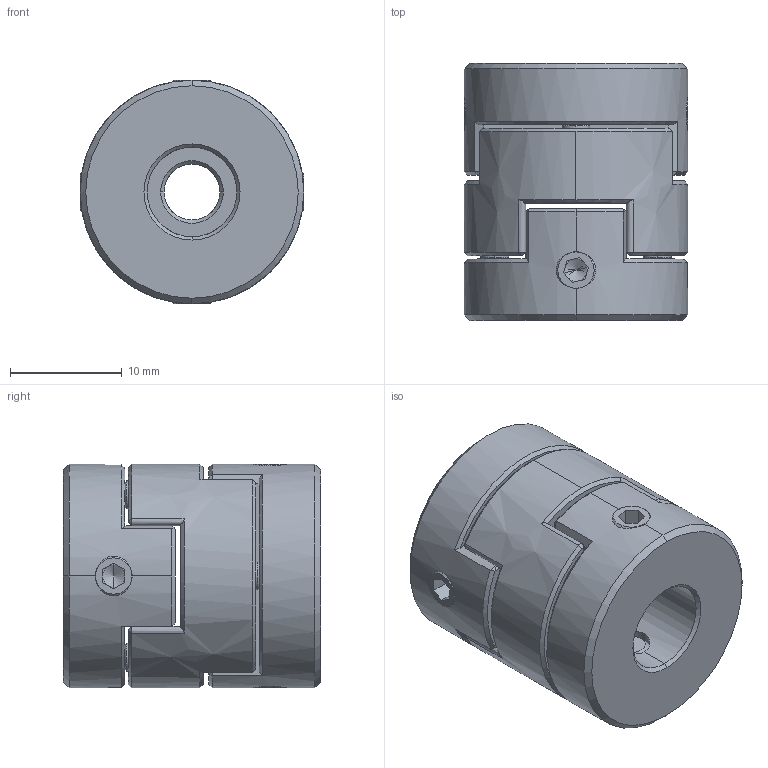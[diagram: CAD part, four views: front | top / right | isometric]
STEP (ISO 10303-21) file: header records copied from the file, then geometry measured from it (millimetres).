
FILE_DESCRIPTION (( 'STEP AP203' ), '1' );
FILE_NAME ('LZ-D-D20L23-5-8.STEP', '2021-10-30T01:43:28', ( '' ), ( '' ), 'SwSTEP 2.0', 'SolidWorks 2018', '' );
FILE_SCHEMA (( 'CONFIG_CONTROL_DESIGN' ));
Length unit declared in the file: millimetre
Products named in the file (1): LZ-D-D20L23-5-8
Bounding box: 20 x 23 x 20 mm (x, y, z)
Volume: 6049.4 mm3; surface area: 4110.8 mm2
Topology: 3 solids, 3 shells, 231 faces, 592 edges, 368 vertices
Faces by surface type: plane 117, cone 54, cylinder 34, bspline 26
Entity records: 9795 total; most frequent: CARTESIAN_POINT 4470, ORIENTED_EDGE 1168, DIRECTION 986, EDGE_CURVE 584, VERTEX_POINT 368, AXIS2_PLACEMENT_3D 360, LINE 266, VECTOR 266
